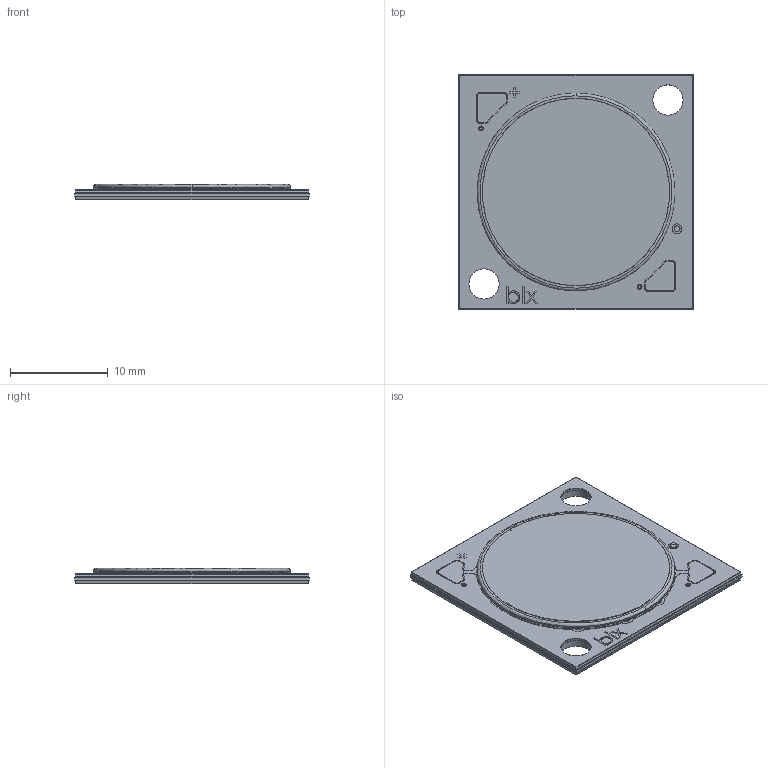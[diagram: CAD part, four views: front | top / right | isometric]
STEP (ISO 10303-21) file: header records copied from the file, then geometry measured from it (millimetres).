
FILE_DESCRIPTION (( 'STEP AP214' ), '1' );
FILE_NAME ('V18 nxt.STEP', '2016-01-20T02:48:40', ( '' ), ( '' ), 'SwSTEP 2.0', 'SolidWorks 2014', '' );
FILE_SCHEMA (( 'AUTOMOTIVE_DESIGN' ));
Length unit declared in the file: millimetre
Products named in the file (1): V18 nxt
Bounding box: 24 x 24 x 1.56 mm (x, y, z)
Volume: 730.2 mm3; surface area: 3790 mm2
Topology: 40 solids, 40 shells, 522 faces, 1274 edges, 839 vertices
Faces by surface type: cylinder 324, plane 172, bspline 26
Entity records: 22419 total; most frequent: CARTESIAN_POINT 3432, DIRECTION 2898, ORIENTED_EDGE 2548, EDGE_CURVE 1274, AXIS2_PLACEMENT_3D 1161, VERTEX_POINT 839, CIRCLE 664, LINE 576
